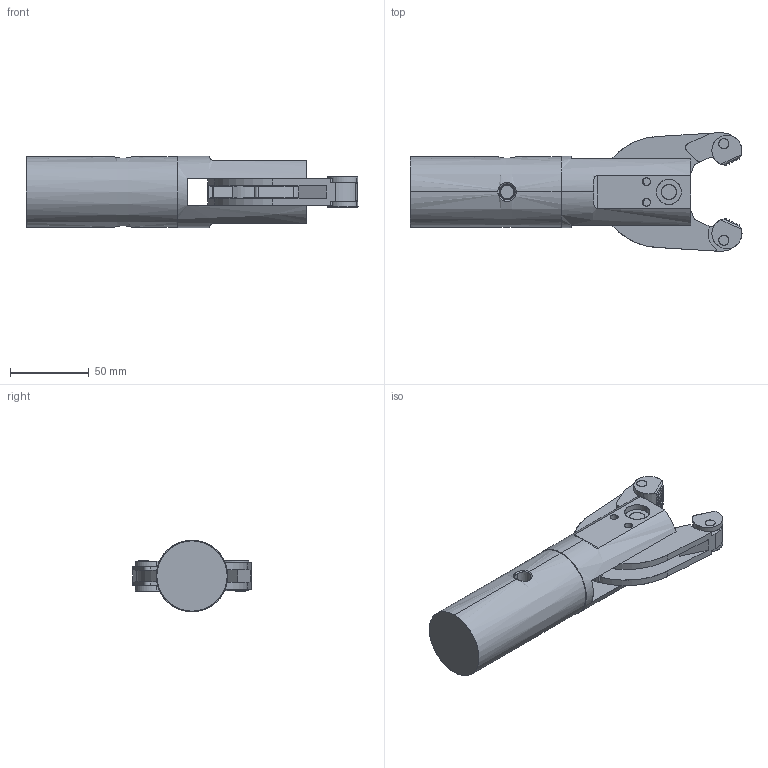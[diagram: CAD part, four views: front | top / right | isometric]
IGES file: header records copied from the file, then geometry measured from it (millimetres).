
Start section: SolidWorks IGES file using analytic representation for surfaces
Global section: file name: C:\Users\Ever Ortega Calderón\Documents\TEC\II S 2022\Física Computacional II\SOLID WORKS\Tarea 2\Pieza 2\Ensamblaje 2 Pieza 2 Tarea 2.IGS; native system: SolidWorks 2022; preprocessor: SolidWorks 2022; author: Ever Ortega Calderón; date: 220827.094139; units: millimetre
Bounding box: 210.27 x 75.13 x 45.21 mm (x, y, z)
Surface area: 58233.1 mm2 (no closed solid volume)
Topology: 0 solids, 0 shells, 498 faces, 4963 edges, 4957 vertices
Faces by surface type: bspline 355, revolution 143
